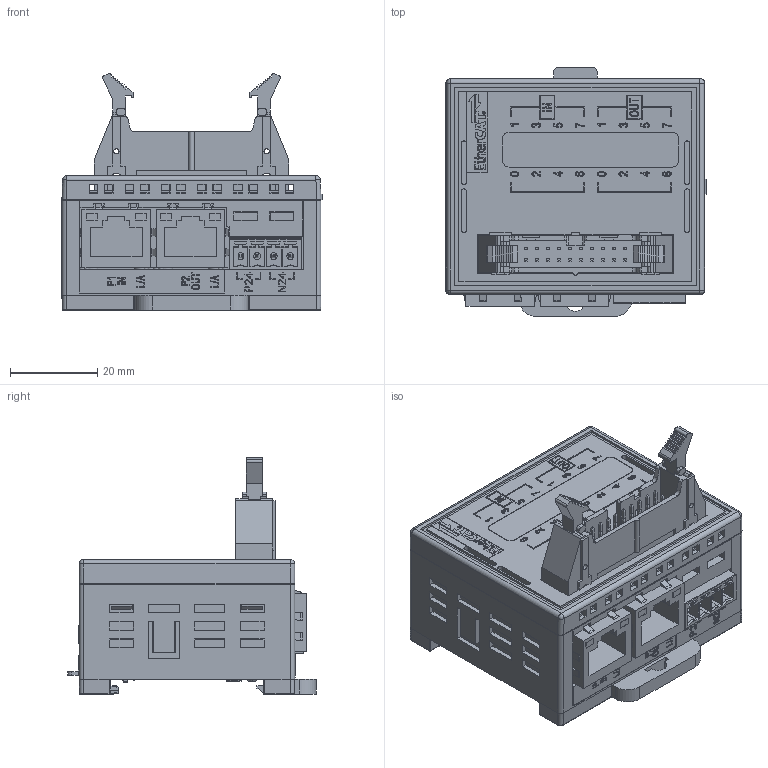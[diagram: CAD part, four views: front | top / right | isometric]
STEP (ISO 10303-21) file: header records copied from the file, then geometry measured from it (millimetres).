
FILE_DESCRIPTION((''),'2;1');
FILE_NAME('ECCMP88','2026-05-11T14:24:53',('gijyu181'),(''),'CREO PARAMETRIC BY PTC INC, 2018050','CREO PARAMETRIC BY PTC INC, 2018050','');
FILE_SCHEMA(('CONFIG_CONTROL_DESIGN','SHAPE_APPEARANCE_LAYERS_GROUPS'));
Products named in the file (1): ECCMP88
Bounding box: 59.75 x 57.15 x 54.5 mm (x, y, z)
Volume: 70719.7 mm3; surface area: 38762 mm2
Topology: 1 solids, 15 shells, 6180 faces, 17097 edges, 11245 vertices
Faces by surface type: plane 4736, cylinder 682, extrusion 648, sphere 44, torus 26, bspline 24, cone 20
Entity records: 246189 total; most frequent: CARTESIAN_POINT 42996, ORIENTED_EDGE 34166, DIRECTION 28518, EDGE_CURVE 17087, VECTOR 14732, LINE 14084, VERTEX_POINT 11245, PRESENTATION_STYLE_ASSIGNMENT 9382
